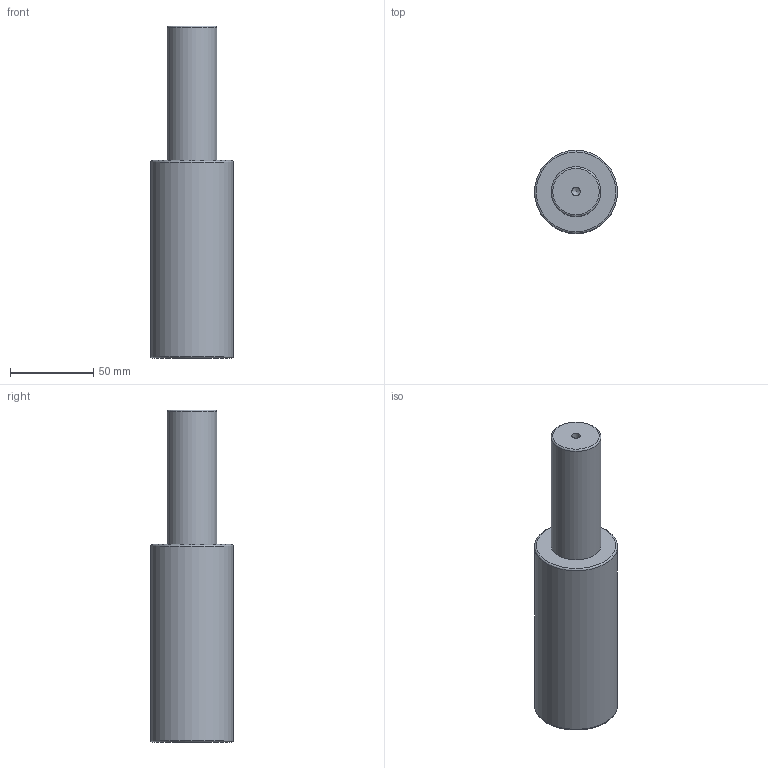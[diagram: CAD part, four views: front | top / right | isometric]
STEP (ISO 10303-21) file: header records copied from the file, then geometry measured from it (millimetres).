
FILE_DESCRIPTION(/* description */ (''),/* implementation_level */ '2;1');
FILE_NAME(/* name */ 'NV5-SMLX.50x80.stp',/* time_stamp */ '2018-08-31T16:08:32+02:00',/* author */ (''),/* organization */ (''),/* preprocessor_version */ 'ST-DEVELOPER v16',/* originating_system */ 'SIEMENS PLM Software NX 10.0',/* authorisation */ '');
FILE_SCHEMA (('AUTOMOTIVE_DESIGN { 1 0 10303 214 3 1 1 1 }'));
Length unit declared in the file: millimetre
Products named in the file (1): NV5-SMLX.50x80
Bounding box: 50 x 50 x 200 mm (x, y, z)
Volume: 289586 mm3; surface area: 30716.4 mm2
Topology: 1 solids, 1 shells, 12 faces, 24 edges, 15 vertices
Faces by surface type: cylinder 4, torus 3, plane 3, cone 2
Full cylindrical faces by diameter (mm): 5 x1, 8.5 x1, 30 x1, 50 x1
Entity records: 266 total; most frequent: DIRECTION 48, CARTESIAN_POINT 37, FACE_BOUND 24, AXIS2_PLACEMENT_3D 24, EDGE_LOOP 22, ORIENTED_EDGE 22, VERTEX_POINT 13, ADVANCED_FACE 12
